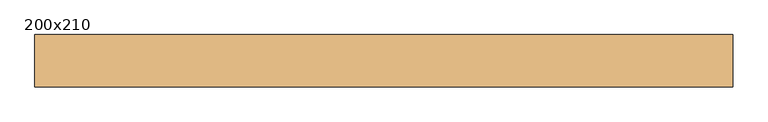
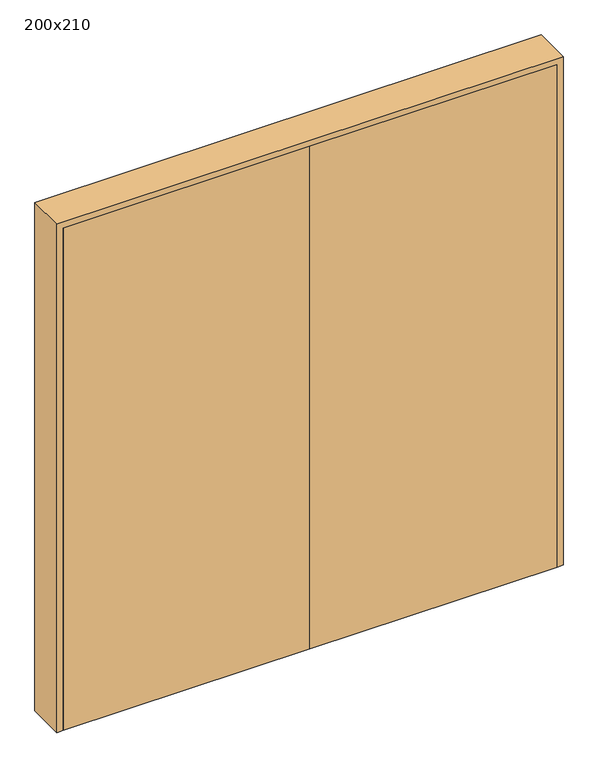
"""IFC4 building model written with IfcOpenShell, lengths in millimetres: door geometry, Porta Corta Fogo 2 Folhas : 200x210."""

from ifc_helpers import new_model, si_unit, frame, origin, place, context, project, spatial, polyline, circle_curve, ellipse_curve, outline, extrude, faceted_brep, source, transform, mapped, element, save
from ifc_brep_helpers import plane_surface, cylinder_surface, revolved_surface, advanced_brep


def door_200x210_8054a352(model_context):
    return source(origin(), model_context, "Body", "SolidModel", [
        advanced_brep(
        [(-104.101776, -12.2720654, 1066.751652), (-50.898224, -12.2720654, 1066.751652), (-50.3823268, -13.5344669, 1065.3823268), (-50.0, -15.0, 1065.0), (-105.0, -15.0, 1065.0), (-104.6176732, -13.5344669, 1065.3823268), (-102.212583, -7.6492062, 1074.8346794), (-52.787417, -7.6492062, 1074.8346794), (-101.1299497, -5.0, 1077.0871215), (-53.8700503, -5.0, 1077.0871215), (-95.0, 10.0, 1100.0), (-100.4514282, -3.3396566, 1122.1141672), (-54.5485718, -3.3396566, 1122.1141672), (-60.0, 10.0, 1100.0), (-87.5, 5.0, 1115.0), (-87.5, 10.0, 1100.0), (-87.5, 5.0, 1085.0), (-67.5, 5.0, 1085.0), (-67.5, 10.0, 1100.0), (-67.5, 5.0, 1115.0), (-101.9587963, -7.0281894, 1128.7172501), (-53.0412037, -7.0281894, 1128.7172501), (-103.9905928, -12.0, 1221.0), (-51.0094072, -12.0, 1221.0), (-104.6176732, -13.5344669, 1223.6176732), (-105.0, -15.0, 1224.0), (-50.0, -15.0, 1224.0), (-50.3823268, -13.5344669, 1223.6176732), (-50.0, -45.0, 1224.0), (-105.0, -45.0, 1224.0), (-105.0, -45.0, 1065.0), (-50.0, -45.0, 1065.0)],
        [
            (0, 1),
            (1, 2, ellipse_curve(frame((-49.7834172, -15.0, 1068.0), z_axis=(-0.9256856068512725, -0.37829374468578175, 0.0), x_axis=(0.37829374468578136, -0.9256856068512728, 0.0)), 3.2408411, 3.0)),
            (2, 3, ellipse_curve(frame((-53.0, -15.0, 1068.0), z_axis=(-0.7071067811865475, 0.0, -0.7071067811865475), x_axis=(0.7071067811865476, 0.0, -0.7071067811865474)), 4.2426407, 3.0)),
            (3, 4),
            (4, 5, ellipse_curve(frame((-102.0, -15.0, 1068.0), z_axis=(0.7071067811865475, 0.0, -0.7071067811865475), x_axis=(0.7071067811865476, 0.0, 0.7071067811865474)), 4.2426407, 3.0)),
            (5, 0, ellipse_curve(frame((-105.2165828, -15.0, 1068.0), z_axis=(0.9256856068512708, -0.3782937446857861, 0.0), x_axis=(0.3782937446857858, 0.9256856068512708, 0.0)), 3.2408411, 3.0)),
            (0, 6),
            (6, 7),
            (7, 1),
            (6, 8, ellipse_curve(frame((-100.3971816, -3.2069149, 1072.2940365), z_axis=(-0.9256856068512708, 0.3782937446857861, 0.0), x_axis=(-0.3782937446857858, -0.9256856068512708, 0.0)), 5.5283361, 5.1175012)),
            (8, 9),
            (9, 7, ellipse_curve(frame((-54.6028184, -3.2069149, 1072.2940365), z_axis=(0.9256856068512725, 0.37829374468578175, 0.0), x_axis=(-0.37829374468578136, 0.9256856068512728, 0.0)), 5.5283361, 5.1175012)),
            (8, 10, ellipse_curve(frame((-105.2165828, -15.0, 1100.0), z_axis=(0.9256856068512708, -0.3782937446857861, 0.0), x_axis=(0.3782937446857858, 0.9256856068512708, 0.0)), 27.0070095, 25.0)),
            (10, 11, ellipse_curve(frame((-105.2165828, -15.0, 1100.0), z_axis=(0.9256856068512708, -0.3782937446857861, 0.0), x_axis=(0.3782937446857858, 0.9256856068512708, 0.0)), 27.0070095, 25.0)),
            (11, 12),
            (12, 13, ellipse_curve(frame((-49.7834172, -15.0, 1100.0), z_axis=(-0.9256856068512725, -0.37829374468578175, 0.0), x_axis=(0.37829374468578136, -0.9256856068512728, 0.0)), 27.0070095, 25.0)),
            (13, 9, ellipse_curve(frame((-49.7834172, -15.0, 1100.0), z_axis=(-0.9256856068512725, -0.37829374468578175, 0.0), x_axis=(0.37829374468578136, -0.9256856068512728, 0.0)), 27.0070095, 25.0)),
            (14, 15, circle_curve(frame((-87.5, -15.0, 1100.0), z_axis=(-1.0, 0.0, 0.0), x_axis=(0.0, -1.0, 0.0)), 25.0)),
            (15, 16, circle_curve(frame((-87.5, -15.0, 1100.0), z_axis=(-1.0, 0.0, 0.0), x_axis=(0.0, -1.0, 0.0)), 25.0)),
            (16, 17),
            (17, 18, circle_curve(frame((-67.5, -15.0, 1100.0), z_axis=(1.0, 0.0, 0.0), x_axis=(0.0, -1.0, 0.0)), 25.0)),
            (18, 19, circle_curve(frame((-67.5, -15.0, 1100.0), z_axis=(1.0, 0.0, 0.0), x_axis=(0.0, -1.0, 0.0)), 25.0)),
            (19, 14),
            (11, 20, ellipse_curve(frame((-98.4515229, 1.554116, 1129.179629), z_axis=(-0.9256856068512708, 0.3782937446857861, 0.0), x_axis=(-0.3782937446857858, -0.9256856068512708, 0.0)), 9.2847419, 8.5947519)),
            (20, 21),
            (21, 12, ellipse_curve(frame((-56.5484771, 1.554116, 1129.179629), z_axis=(0.9256856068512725, 0.37829374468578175, 0.0), x_axis=(-0.37829374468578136, 0.9256856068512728, 0.0)), 9.2847419, 8.5947519)),
            (20, 22),
            (22, 23),
            (23, 21),
            (22, 24, ellipse_curve(frame((-105.2165828, -15.0, 1221.0), z_axis=(0.9256856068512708, -0.3782937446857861, 0.0), x_axis=(0.3782937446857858, 0.9256856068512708, 0.0)), 3.2408411, 3.0)),
            (24, 25, ellipse_curve(frame((-102.0, -15.0, 1221.0), z_axis=(0.7071067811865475, 0.0, 0.7071067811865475), x_axis=(0.7071067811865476, 0.0, -0.7071067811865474)), 4.2426407, 3.0)),
            (25, 26),
            (26, 27, ellipse_curve(frame((-53.0, -15.0, 1221.0), z_axis=(-0.7071067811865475, 0.0, 0.7071067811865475), x_axis=(0.7071067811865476, 0.0, 0.7071067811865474)), 4.2426407, 3.0)),
            (27, 23, ellipse_curve(frame((-49.7834172, -15.0, 1221.0), z_axis=(-0.9256856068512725, -0.37829374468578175, 0.0), x_axis=(0.37829374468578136, -0.9256856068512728, 0.0)), 3.2408411, 3.0)),
            (24, 5),
            (4, 25),
            (27, 2),
            (26, 3),
            (28, 29),
            (29, 30),
            (30, 31),
            (31, 28),
            (28, 26),
            (25, 29),
            (4, 30),
            (3, 31),
            (14, 16),
            (19, 17),
        ],
        [
            cylinder_surface(frame((-105.0, -15.0, 1068.0), z_axis=(1.0, 0.0, 0.0), x_axis=(0.0, -1.0, 0.0)), 3.0),
            plane_surface(frame((-50.0, -12.2720654, 1066.751652), z_axis=(0.0, 0.8680586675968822, -0.496461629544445), x_axis=(-1.0, 0.0, 0.0))),
            revolved_surface(polyline([(-102.4885165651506, -8.3244161, 1072.2940365), (-52.51148343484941, -8.3244161, 1072.2940365)]), (-105.0, -3.2069149, 1072.2940365), (-1.0, 0.0, 0.0)),
            cylinder_surface(frame((-105.0, -15.0, 1100.0), z_axis=(1.0, 0.0, 0.0), x_axis=(0.0, -1.0, 0.0)), 25.0),
            revolved_surface(polyline([(-101.96388268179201, -7.0406359, 1129.179629), (-53.03611731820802, -7.0406359, 1129.179629)]), (-105.0, 1.554116, 1129.179629), (-1.0, 0.0, 0.0)),
            plane_surface(frame((-50.0, -7.0281894, 1128.7172501), z_axis=(0.0, 0.9985518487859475, 0.05379781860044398), x_axis=(-1.0, 0.0, 0.0))),
            cylinder_surface(frame((-105.0, -15.0, 1221.0), z_axis=(1.0, 0.0, 0.0), x_axis=(0.0, -1.0, 0.0)), 3.0),
            cylinder_surface(frame((-102.0, -15.0, 1059.1367409), z_axis=(0.0, 0.0, -1.0), x_axis=(1.0, 0.0, 0.0)), 3.0),
            plane_surface(frame((-104.6176732, -13.5344669, 1234.0272103), z_axis=(-0.9256856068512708, 0.3782937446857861, 0.0), x_axis=(0.0, 0.0, -1.0))),
            plane_surface(frame((-60.0, 10.0, 1234.0272103), z_axis=(0.9256856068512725, 0.37829374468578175, 0.0), x_axis=(0.0, 0.0, -1.0))),
            cylinder_surface(frame((-53.0, -15.0, 1100.0), z_axis=(0.0, 0.0, -1.0), x_axis=(1.0, 0.0, 0.0)), 3.0),
            plane_surface(frame((-50.0, -45.0, 1224.0), z_axis=(0.0, -1.0, 0.0), x_axis=(-1.0, 0.0, 0.0))),
            plane_surface(frame((-50.0, -45.0, 1224.0), z_axis=(0.0, 0.0, 1.0), x_axis=(0.0, 1.0, 0.0))),
            plane_surface(frame((-105.0, -45.0, 1224.0), z_axis=(-1.0, 0.0, 0.0), x_axis=(0.0, 1.0, 0.0))),
            plane_surface(frame((-105.0, -45.0, 1065.0), z_axis=(0.0, 0.0, -1.0), x_axis=(0.0, 1.0, 0.0))),
            plane_surface(frame((-50.0, -45.0, 1065.0), z_axis=(1.0, 0.0, 0.0), x_axis=(0.0, 1.0, 0.0))),
            plane_surface(frame((-87.5, 10.0, 1135.4621864), z_axis=(1.0, 0.0, 0.0), x_axis=(0.0, 0.0, -1.0))),
            plane_surface(frame((-87.5, 5.0, 1135.4621864), z_axis=(0.0, 1.0, 0.0), x_axis=(0.0, 0.0, -1.0))),
            plane_surface(frame((-67.5, 5.0, 1135.4621864), z_axis=(-1.0, 0.0, 0.0), x_axis=(0.0, 0.0, -1.0))),
        ],
        [
            (0, [[1, 2, 3, 4, 5, 6]]),
            (1, [[-1, 7, 8, 9]]),
            (2, [[-8, 10, 11, 12]]),
            (3, [[-11, 13, 14, 15, 16, 17], [18, 19, 20, 21, 22, 23]]),
            (4, [[-15, 24, 25, 26]]),
            (5, [[-25, 27, 28, 29]]),
            (6, [[-28, 30, 31, 32, 33, 34]]),
            (7, [[35, -5, 36, -31]]),
            (8, [[-35, -30, -27, -24, -14, -13, -10, -7, -6]]),
            (9, [[37, -2, -9, -12, -17, -16, -26, -29, -34]]),
            (10, [[-37, -33, 38, -3]]),
            (11, [[39, 40, 41, 42]]),
            (12, [[-39, 43, -32, 44]]),
            (13, [[-40, -44, -36, 45]]),
            (14, [[-41, -45, -4, 46]]),
            (15, [[-42, -46, -38, -43]]),
            (16, [[47, -19, -18]]),
            (17, [[-47, -23, 48, -20]]),
            (18, [[-48, -22, -21]]),
        ],
    ),
        extrude(outline(polyline([(975.0, -75.0), (0.0, -75.0), (0.0, -45.0), (975.0, -45.0), (975.0, -75.0)])), frame((0.0, 0.0, 50.0), z_axis=(0.0, 0.0, 1.0), x_axis=(1.0, 0.0, 0.0)), (0.0, 0.0, 1.0), 2100.0),
        extrude(outline(polyline([(0.0, -75.0), (-975.0, -75.0), (-975.0, -45.0), (0.0, -45.0), (0.0, -75.0)])), frame((0.0, 0.0, 50.0), z_axis=(0.0, 0.0, 1.0), x_axis=(1.0, 0.0, 0.0)), (0.0, 0.0, 1.0), 2100.0),
        faceted_brep([(-1000.0, 75.0, 50.0), (-965.0, 75.0, 50.0), (-965.0, -45.0, 50.0), (-975.0, -45.0, 50.0), (-975.0, -75.0, 50.0), (-1000.0, -75.0, 50.0), (-1000.0, 75.0, 2175.0), (1000.0, 75.0, 2175.0), (1000.0, 75.0, 50.0), (965.0, 75.0, 50.0), (965.0, 75.0, 2140.0), (-965.0, 75.0, 2140.0), (-965.0, -45.0, 2140.0), (965.0, -45.0, 2140.0), (965.0, -45.0, 50.0), (975.0, -45.0, 50.0), (975.0, -45.0, 2150.0), (-975.0, -45.0, 2150.0), (-975.0, -75.0, 2150.0), (975.0, -75.0, 2150.0), (975.0, -75.0, 50.0), (1000.0, -75.0, 50.0), (1000.0, -75.0, 2175.0), (-1000.0, -75.0, 2175.0)], [[[0, 1, 2, 3, 4, 5]], [[1, 0, 6, 7, 8, 9, 10, 11]], [[2, 1, 11, 12]], [[3, 2, 12, 13, 14, 15, 16, 17]], [[4, 3, 17, 18]], [[5, 4, 18, 19, 20, 21, 22, 23]], [[0, 5, 23, 6]], [[7, 22, 21, 8]], [[8, 21, 20, 15, 14, 9]], [[13, 10, 9, 14]], [[19, 16, 15, 20]], [[12, 11, 10, 13]], [[18, 17, 16, 19]], [[6, 23, 22, 7]]]),
    ])


if __name__ == "__main__":
    model = new_model("IFC4")
    model_context = context("Model", 3, world=origin())
    ifc_project = project(units=[si_unit("LENGTHUNIT", "METRE", prefix="MILLI")], contexts=[model_context])
    site = spatial("IfcSite", under=ifc_project)
    building = spatial("IfcBuilding", under=site)
    placement = place(None, origin())
    door_200x210_shape = door_200x210_8054a352(model_context)
    element("IfcDoor", 1, ObjectType="Porta Corta Fogo 2 Folhas : 200x210", at=placement, inside=building, context=model_context, shape_type="MappedRepresentation", body=[
        mapped(door_200x210_shape, transform((0.0, 0.0, 0.0), x_axis=(1.0, 0.0, 0.0), y_axis=(0.0, 1.0, 0.0), z_axis=(0.0, 0.0, 1.0))),
    ])
    save(model, "model.ifc")
